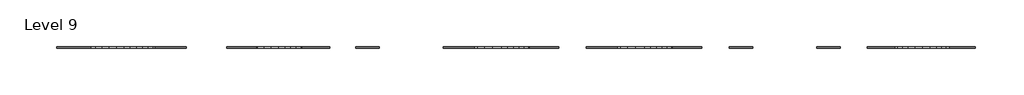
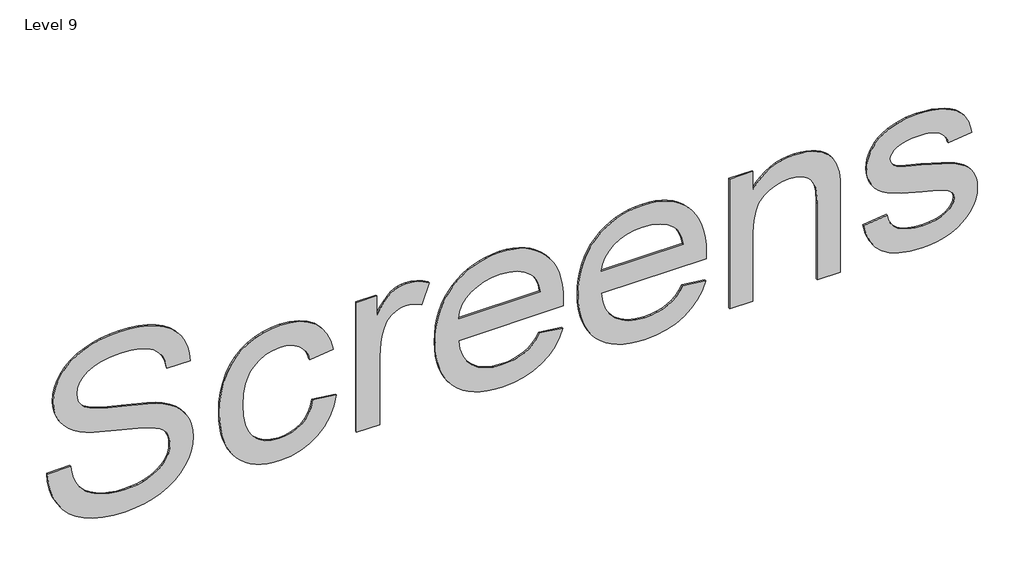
# One storey: 1 proxy.
"""IFC4 building model written with IfcOpenShell, lengths in millimetres."""

from ifc_helpers import new_model, si_unit, frame, origin, place, context, project, spatial, polyline, outline, extrude, element, save

model = new_model("IFC4")

# Units and contexts
model_context = context("Model", 3, world=origin())
ifc_project = project(units=[si_unit("LENGTHUNIT", "METRE", prefix="MILLI")], contexts=[model_context])

# Site, building, storey
site = spatial("IfcSite", under=ifc_project)
building = spatial("IfcBuilding", under=site)
storey = spatial("IfcBuildingStorey", under=building, Name="Level 9", Elevation=24000.0)

# Proxy
placement = place(None, origin())
element("IfcBuildingElementProxy", 1, Name="1200mm Arial", ObjectType="1200mm Arial", at=placement, inside=storey, context=model_context, shape_type="SweptSolid", body=[
    extrude(outline(polyline([(25424.9429249, -37430.8313829), (25364.00578, -37425.6845435), (25306.2966181, -37413.400275), (25251.8154391, -37393.9785776), (25200.5622431, -37367.4194511), (25154.0434221, -37334.4491919), (25113.7653681, -37295.794096), (25079.7280812, -37251.4541635), (25051.9315613, -37201.4293943), (25030.339942, -37145.379057), (25014.9173567, -37082.9624199), (25005.6638056, -37014.1794831), (25002.5792885, -36939.0302466), (25005.4396401, -36878.8731976), (25014.0206948, -36821.7827324), (25028.3224526, -36767.758851), (25048.3449135, -36716.8015534), (25073.5231806, -36670.2647991), (25103.2923567, -36629.5025477), (25137.652442, -36594.5147991), (25176.6034363, -36565.3015534), (25218.5223816, -36542.2663084), (25261.7863198, -36525.8125619), (25306.3952509, -36515.9403141), (25352.3491749, -36512.6495648), (25398.0251337, -36515.5099163), (25440.9393738, -36524.090971), (25481.0918951, -36538.3927288), (25518.4826976, -36558.4151898), (25552.9324491, -36584.4632189), (25584.261817, -36616.8416812), (25612.4708013, -36655.5505768), (25637.5594022, -36700.5899057), (25654.1117814, -36741.5852892), (25671.9194874, -36798.5771216), (25711.3008795, -36960.5501329), (25732.1393028, -37048.2795364), (25752.7625272, -37117.5018375), (25773.1705528, -37168.2170364), (25793.3633795, -37200.4251329), (25814.6860002, -37220.8869582), (25838.7703397, -37235.5025477), (25865.6163979, -37244.2719014), (25895.2241749, -37247.1950193), (25929.6380599, -37243.0703744), (25961.433692, -37230.6964398), (25990.6110712, -37210.0732153), (26017.1701976, -37181.2007011), (26039.2639476, -37143.3077679), (26055.0451976, -37095.6232864), (26064.5139476, -37038.1472565), (26067.6701976, -36970.8796784), (26064.4780812, -36905.692356), (26054.9017317, -36849.0053886), (26038.9411493, -36800.8187764), (26016.596334, -36761.1325193), (25988.0107516, -36729.3548204), (25953.3278681, -36704.8938829), (25912.5476834, -36687.7497068), (25865.6701976, -36677.922292), (25865.6701976, -36531.0132011), (25915.6860002, -36536.1600406), (25963.011817, -36547.5835136), (26007.6476479, -36565.2836202), (26049.5934931, -36589.2603602), (26087.7374917, -36619.2806017), (26120.9677829, -36655.1112125), (26149.2843667, -36696.7521926), (26172.6872431, -36744.203542), (26191.015013, -36796.4968659), (26204.1062772, -36852.6637693), (26211.9610357, -36912.7042523), (26214.5792885, -36976.6183148), (26212.0776018, -37035.2062054), (26204.5725414, -37091.0323773), (26192.0641074, -37144.0968304), (26174.5522999, -37194.3995648), (26152.2074846, -37240.3893552), (26125.2000272, -37280.5149767), (26093.5299278, -37314.7764291), (26057.1971863, -37343.1737125), (26017.8068276, -37365.4557615), (25976.9638766, -37381.3715108), (25934.6683333, -37390.9209604), (25890.9201976, -37394.1041102), (25851.4491394, -37391.5306905), (25813.9507374, -37383.8104312), (25778.4249917, -37370.9433325), (25744.8719022, -37352.9293943), (25713.6142672, -37329.6789504), (25684.9748851, -37301.1023347), (25658.9537559, -37267.199547), (25635.5508795, -37227.9705875), (25618.1108049, -37189.3692913), (25600.2223993, -37138.1250619), (25563.1005954, -36997.7078034), (25530.0675698, -36861.3793233), (25507.0054249, -36783.8001329), (25492.5064015, -36749.2607153), (25476.5547857, -36721.1055307), (25459.1505776, -36699.334579), (25440.2937772, -36683.9478602), (25419.876785, -36673.2775832), (25397.7920016, -36665.6559568), (25374.039427, -36661.082981), (25348.6190613, -36659.5586557), (25323.0910961, -36661.5940783), (25298.1549278, -36667.700346), (25273.8105563, -36677.8774589), (25250.0579817, -36692.125417), (25227.8566323, -36710.5338865), (25208.1659363, -36733.1925335), (25190.9858937, -36760.1013581), (25176.3165045, -36791.2603602), (25164.5791998, -36825.8177111), (25156.1954107, -36862.9215818), (25151.1651373, -36902.5719724), (25149.4883795, -36944.7688829), (25151.7031344, -36992.4712977), (25158.3473993, -37037.734792), (25169.4211742, -37080.5593659), (25184.924459, -37120.9450193), (25204.0233581, -37157.5467594), (25225.883976, -37189.0195932), (25250.5063127, -37215.3635207), (25277.8903681, -37236.578542), (25308.654839, -37253.5254526), (25343.4184221, -37267.0650477), (25382.1811174, -37277.1973276), (25424.9429249, -37283.922292), (25424.9429249, -37430.8313829)])), frame((0.0, 24202.6264647, 0.0), z_axis=(0.0, 1.0, 0.0), x_axis=(0.0, 0.0, 1.0)), (0.0, 0.0, 1.0), 10.0),
    extrude(outline(polyline([(25333.1247431, -35759.7404739), (25289.3855741, -35769.7382544), (25251.7078397, -35784.8111415), (25220.09154, -35804.9591351), (25194.5366749, -35830.1822352), (25174.8280456, -35859.6555129), (25160.7504533, -35892.5540392), (25152.3038979, -35928.8778141), (25149.4883795, -35968.6268375), (25153.998589, -36017.9522104), (25167.5292175, -36062.3459426), (25190.0802651, -36101.8080342), (25221.6517317, -36136.3384852), (25241.0577376, -36151.3687809), (25263.194079, -36164.3950371), (25315.6577687, -36184.4354312), (25379.0428006, -36196.4596677), (25453.3491749, -36200.4677466), (25526.552655, -36196.3700016), (25589.2113908, -36184.0767665), (25641.3253823, -36163.5880413), (25663.4280989, -36150.27037), (25682.8946295, -36134.9038261), (25714.6543951, -36099.6739788), (25737.339942, -36059.5483574), (25750.9512701, -36014.5269618), (25755.4883795, -35964.609792), (25753.1839583, -35931.1732686), (25746.2706948, -35900.3011983), (25734.748589, -35871.9935811), (25718.6176408, -35846.250417), (25697.9137168, -35823.6455697), (25672.6726834, -35804.7529028), (25642.8945407, -35789.5724163), (25608.5792885, -35778.1041102), (25626.9429249, -35631.1950193), (25689.171263, -35647.290101), (25743.8676408, -35671.1861415), (25791.0320584, -35702.8831408), (25830.6645158, -35742.3810989), (25862.0476834, -35788.8909533), (25884.4642317, -35841.6236415), (25897.9141607, -35900.5791635), (25902.3974704, -35965.7575193), (25899.1336209, -36018.7054064), (25889.3420726, -36069.662704), (25873.0228255, -36118.6294121), (25850.1758795, -36165.6055307), (25820.7922679, -36208.6453034), (25784.8630243, -36245.8029739), (25742.3881486, -36277.078542), (25693.3676408, -36302.4720079), (25638.8954285, -36322.1178709), (25580.0654391, -36336.1506301), (25516.8776728, -36344.5702856), (25449.3321295, -36347.3768375), (25396.9558644, -36345.7337045), (25347.7134327, -36340.8043055), (25301.6048345, -36332.5886406), (25258.6300698, -36321.0867097), (25218.7891385, -36306.2985127), (25182.0820407, -36288.2240499), (25148.5087763, -36266.863321), (25118.0693454, -36242.2163261), (25091.0013633, -36214.8614122), (25067.5424455, -36185.3769263), (25047.692592, -36153.7628682), (25031.4518028, -36120.0192381), (25018.8200778, -36084.1460358), (25009.7974171, -36046.1432615), (25004.3838207, -36006.0109151), (25002.5792885, -35963.7489966), (25007.7530279, -35897.4318801), (25023.2742459, -35836.4947352), (25049.1429427, -35780.9375619), (25085.3591181, -35730.7603602), (25130.7391785, -35687.7743872), (25184.09953, -35653.7909), (25245.4401728, -35628.8098986), (25314.7611067, -35612.8313829), (25333.1247431, -35759.7404739)])), frame((0.0, 24202.6264647, 0.0), z_axis=(0.0, 1.0, 0.0), x_axis=(0.0, 0.0, 1.0)), (0.0, 0.0, 1.0), 10.0),
    extrude(outline(polyline([(25020.9429249, -35484.2859284), (25020.9429249, -35337.3768375), (25474.5821295, -35337.3768375), (25564.1048567, -35331.4230023), (25606.0686351, -35323.9807082), (25646.1673567, -35313.5614966), (25670.4489618, -35304.2272459), (25691.9329817, -35292.2926756), (25710.6194164, -35277.7577856), (25726.5082658, -35260.6225761), (25739.1870655, -35241.6043766), (25748.243351, -35221.4205165), (25753.6771224, -35200.0709959), (25755.4883795, -35177.5558148), (25753.6053894, -35151.7319511), (25747.9564192, -35125.9080875), (25738.5414689, -35100.0842239), (25725.3605385, -35074.2603602), (25857.0622431, -35025.1950193), (25876.896405, -35062.4961557), (25891.0636635, -35099.5103602), (25899.5640187, -35136.2376329), (25902.3974704, -35172.6779739), (25900.6220797, -35197.1389114), (25895.2959079, -35220.5955875), (25886.4189547, -35243.0480023), (25873.9912204, -35264.4961557), (25855.9862488, -35285.9084426), (25830.377584, -35308.2532579), (25797.165226, -35331.5306017), (25756.3491749, -35355.7404739), (25884.033834, -35355.7404739), (25884.033834, -35484.2859284), (25020.9429249, -35484.2859284)])), frame((0.0, 24202.6264647, 0.0), z_axis=(0.0, 1.0, 0.0), x_axis=(0.0, 0.0, 1.0)), (0.0, 0.0, 1.0), 10.0),
    extrude(outline(polyline([(25278.033834, -34329.0984284), (25246.7403326, -34348.1435278), (25220.0018738, -34370.2731443), (25197.8184576, -34395.4872778), (25180.190084, -34423.7859284), (25166.7580883, -34455.169096), (25157.1638056, -34489.6367807), (25151.407236, -34527.1889824), (25149.4883795, -34567.8257011), (25153.6309576, -34622.1544476), (25166.058692, -34671.8026187), (25186.7715826, -34716.7702146), (25215.7696295, -34757.0572352), (25252.5507019, -34790.7986237), (25296.6126692, -34816.1293233), (25347.9555314, -34833.0493339), (25406.5792885, -34841.5586557), (25406.5792885, -34181.328542), (25446.1758795, -34180.4677466), (25498.8861511, -34182.2095124), (25548.5567388, -34187.4348098), (25595.1876426, -34196.1436388), (25638.7788624, -34208.3359994), (25679.3303983, -34224.0118916), (25716.8422502, -34243.1713155), (25751.3144182, -34265.8142709), (25782.7469022, -34291.9407579), (25810.7900041, -34320.8110305), (25835.0940258, -34351.6853425), (25855.6589672, -34384.5636939), (25872.4848283, -34419.4460847), (25885.5716092, -34456.3325149), (25894.9193099, -34495.2229845), (25900.5279302, -34536.1174936), (25902.3974704, -34579.016042), (25900.5234469, -34623.3649412), (25894.9013766, -34665.5977182), (25885.5312594, -34705.714373), (25872.4130954, -34743.7149057), (25855.5468844, -34779.5993162), (25834.9326266, -34813.3676045), (25810.5703219, -34845.0197707), (25782.4599704, -34874.5558148), (25750.9557534, -34901.2539238), (25716.4118525, -34924.3922849), (25678.8282676, -34943.9708982), (25638.2049988, -34959.9897636), (25594.542046, -34972.4488812), (25547.8394093, -34981.3482508), (25498.0970886, -34986.6878727), (25445.315084, -34988.4677466), (25394.2703619, -34986.7058059), (25346.153241, -34981.4199838), (25300.9637213, -34972.6102803), (25258.7018028, -34960.2766954), (25219.3674855, -34944.4192292), (25182.9607694, -34925.0378815), (25149.4816545, -34902.1326525), (25118.9301408, -34875.703542), (25091.6604098, -34846.2706141), (25068.0266429, -34814.3539327), (25048.0288402, -34779.9534977), (25031.6670016, -34743.0693091), (25018.9411271, -34703.701367), (25009.8512168, -34661.8496713), (25004.3972706, -34617.5142221), (25002.5792885, -34570.6950193), (25006.7935996, -34497.7695044), (25019.4365329, -34431.6406869), (25040.5080883, -34372.3085669), (25070.0082658, -34319.7731443), (25107.148003, -34274.5006834), (25151.1382374, -34236.9574483), (25201.9789689, -34207.1434391), (25259.6701976, -34185.0586557), (25278.033834, -34329.0984284)]), holes=[polyline([(25553.4883795, -34841.5586557), (25597.2185819, -34833.5873311), (25636.3040755, -34817.4205165), (25670.7448603, -34793.0582118), (25700.5409363, -34760.500417), (25724.5804427, -34721.7018552), (25741.7515187, -34678.6172494), (25752.0541643, -34631.2465996), (25755.4883795, -34579.5899057), (25751.1844022, -34522.9567381), (25738.2724704, -34471.8470079), (25716.752584, -34426.2607153), (25686.6247431, -34386.1978602), (25661.6258084, -34364.3372423), (25631.1034363, -34347.2468659), (25595.0576266, -34334.926731), (25553.4883795, -34327.3768375), (25553.4883795, -34841.5586557)])]), frame((0.0, 24202.6264647, 0.0), z_axis=(0.0, 1.0, 0.0), x_axis=(0.0, 0.0, 1.0)), (0.0, 0.0, 1.0), 10.0),
    extrude(outline(polyline([(25278.033834, -33429.2802466), (25246.7403326, -33448.325346), (25220.0018738, -33470.4549625), (25197.8184576, -33495.669096), (25180.190084, -33523.9677466), (25166.7580883, -33555.3509142), (25157.1638056, -33589.8185989), (25151.407236, -33627.3708006), (25149.4883795, -33668.0075193), (25153.6309576, -33722.3362658), (25166.058692, -33771.9844369), (25186.7715826, -33816.9520328), (25215.7696295, -33857.2390534), (25252.5507019, -33890.9804419), (25296.6126692, -33916.3111415), (25347.9555314, -33933.2311521), (25406.5792885, -33941.7404739), (25406.5792885, -33281.5103602), (25446.1758795, -33280.6495648), (25498.8861511, -33282.3913306), (25548.5567388, -33287.616628), (25595.1876426, -33296.325457), (25638.7788624, -33308.5178176), (25679.3303983, -33324.1937098), (25716.8422502, -33343.3531337), (25751.3144182, -33365.9960891), (25782.7469022, -33392.1225761), (25810.7900041, -33420.9928487), (25835.0940258, -33451.8671606), (25855.6589672, -33484.745512), (25872.4848283, -33519.6279028), (25885.5716092, -33556.5143331), (25894.9193099, -33595.4048027), (25900.5279302, -33636.2993117), (25902.3974704, -33679.1978602), (25900.5234469, -33723.5467594), (25894.9013766, -33765.7795364), (25885.5312594, -33805.8961912), (25872.4130954, -33843.8967239), (25855.5468844, -33879.7811344), (25834.9326266, -33913.5494227), (25810.5703219, -33945.2015889), (25782.4599704, -33974.7376329), (25750.9557534, -34001.435742), (25716.4118525, -34024.5741031), (25678.8282676, -34044.1527164), (25638.2049988, -34060.1715818), (25594.542046, -34072.6306994), (25547.8394093, -34081.530069), (25498.0970886, -34086.8696908), (25445.315084, -34088.6495648), (25394.2703619, -34086.8876241), (25346.153241, -34081.601802), (25300.9637213, -34072.7920985), (25258.7018028, -34060.4585136), (25219.3674855, -34044.6010474), (25182.9607694, -34025.2196997), (25149.4816545, -34002.3144707), (25118.9301408, -33975.8853602), (25091.6604098, -33946.4524323), (25068.0266429, -33914.5357508), (25048.0288402, -33880.1353158), (25031.6670016, -33843.2511273), (25018.9411271, -33803.8831852), (25009.8512168, -33762.0314895), (25004.3972706, -33717.6960403), (25002.5792885, -33670.8768375), (25006.7935996, -33597.9513226), (25019.4365329, -33531.8225051), (25040.5080883, -33472.4903851), (25070.0082658, -33419.9549625), (25107.148003, -33374.6825016), (25151.1382374, -33337.1392665), (25201.9789689, -33307.3252572), (25259.6701976, -33285.2404739), (25278.033834, -33429.2802466)]), holes=[polyline([(25553.4883795, -33941.7404739), (25597.2185819, -33933.7691493), (25636.3040755, -33917.6023347), (25670.7448603, -33893.24003), (25700.5409363, -33860.6822352), (25724.5804427, -33821.8836734), (25741.7515187, -33778.7990676), (25752.0541643, -33731.4284177), (25755.4883795, -33679.7717239), (25751.1844022, -33623.1385562), (25738.2724704, -33572.0288261), (25716.752584, -33526.4425335), (25686.6247431, -33486.3796784), (25661.6258084, -33464.5190605), (25631.1034363, -33447.4286841), (25595.0576266, -33435.1085491), (25553.4883795, -33427.5586557), (25553.4883795, -33941.7404739)])]), frame((0.0, 24202.6264647, 0.0), z_axis=(0.0, 1.0, 0.0), x_axis=(0.0, 0.0, 1.0)), (0.0, 0.0, 1.0), 10.0),
    extrude(outline(polyline([(25020.9429249, -33133.7404739), (25020.9429249, -32986.8313829), (25478.8861067, -32986.8313829), (25553.0400485, -32982.6439717), (25614.246192, -32970.0817381), (25639.9938393, -32960.6600628), (25662.5045371, -32949.144682), (25681.7782853, -32935.5355955), (25697.815084, -32919.8328034), (25723.0471508, -32884.746422), (25741.0700556, -32846.4858574), (25751.8837985, -32805.0511095), (25755.4883795, -32760.4421784), (25753.8833546, -32732.4035598), (25749.06828, -32706.2479312), (25741.0431557, -32681.9752927), (25729.8079817, -32659.5856443), (25715.8828219, -32639.760449), (25699.7877403, -32623.1811699), (25681.5227367, -32609.847807), (25661.0878113, -32599.7603602), (25636.8241394, -32592.3539327), (25607.0728965, -32587.0636273), (25531.1076976, -32582.8313829), (25020.9429249, -32582.8313829), (25020.9429249, -32435.922292), (25550.9059931, -32435.922292), (25637.2007374, -32437.8590818), (25692.9372431, -32443.6694511), (25751.2202687, -32460.9929597), (25800.9670726, -32487.7134852), (25822.6124917, -32505.4135918), (25842.0700556, -32527.0948773), (25859.3397644, -32552.7573418), (25874.4216181, -32582.4009852), (25886.6610535, -32614.7973808), (25895.4035073, -32648.7181017), (25900.6489796, -32684.1631479), (25902.3974704, -32721.1325193), (25900.2275485, -32763.3204632), (25893.7177829, -32802.943954), (25882.8681735, -32840.0029916), (25867.6787204, -32874.4975761), (25848.1494235, -32906.4277075), (25824.2802829, -32935.7933858), (25796.0712985, -32962.5946109), (25763.5224704, -32986.8313829), (25884.033834, -32986.8313829), (25884.033834, -33133.7404739), (25020.9429249, -33133.7404739)])), frame((0.0, 24202.6264647, 0.0), z_axis=(0.0, 1.0, 0.0), x_axis=(0.0, 0.0, 1.0)), (0.0, 0.0, 1.0), 10.0),
    extrude(outline(polyline([(25278.033834, -32289.0132011), (25213.9404391, -32272.8374199), (25158.2397999, -32248.6992807), (25110.9319164, -32216.5987835), (25072.0167885, -32176.5359284), (25041.6378823, -32127.4885207), (25019.9386635, -32068.4343659), (25006.9191323, -31999.3734639), (25002.5792885, -31920.3058148), (25004.82991, -31870.8459426), (25011.5817743, -31824.0401898), (25022.8348816, -31779.8885562), (25038.5892317, -31738.391042), (25058.4682268, -31700.5788084), (25082.0952687, -31667.4830165), (25109.4703574, -31639.1036663), (25140.5934931, -31615.4407579), (25174.1286493, -31596.7991564), (25208.7397999, -31583.4837267), (25244.4269448, -31575.4944689), (25281.190084, -31572.8313829), (25317.7918241, -31575.0999376), (25351.2731806, -31581.9056017), (25381.6341536, -31593.2483751), (25408.8747431, -31609.1282579), (25433.0308155, -31628.9982864), (25454.1382374, -31652.3114966), (25472.1970087, -31679.0678886), (25487.2071295, -31709.2674625), (25517.980567, -31795.0959426), (25556.3576976, -31924.8967239), (25587.6332658, -32051.4336557), (25602.0515897, -32083.7852182), (25620.0565613, -32106.2376329), (25640.2135215, -32119.3647636), (25662.8094022, -32123.7404739), (25680.7426408, -32121.1042878), (25697.5281522, -32113.1957295), (25713.1659363, -32100.0147991), (25727.6559931, -32081.5614966), (25739.8326621, -32056.9570932), (25748.5302829, -32025.3228602), (25753.7488553, -31986.6587977), (25755.4883795, -31940.9649057), (25753.6681557, -31901.574547), (25748.2074846, -31866.9006301), (25739.106366, -31836.943155), (25726.3647999, -31811.7021216), (25710.3773177, -31791.0878638), (25691.5384505, -31775.0107153), (25669.8481983, -31763.4706763), (25645.3065613, -31756.4677466), (25663.6701976, -31609.5586557), (25702.8991572, -31617.8796784), (25737.9496721, -31629.0700193), (25768.8217424, -31643.1296784), (25795.5153681, -31660.0586557), (25818.8465116, -31680.9329454), (25839.6311351, -31706.828542), (25857.8692388, -31737.7454454), (25873.5608226, -31773.6836557), (25886.176856, -31813.6927111), (25895.1883084, -31856.82215), (25900.5951799, -31903.0719724), (25902.3974704, -31952.4421784), (25897.9141607, -32017.7550335), (25884.4642317, -32078.8356443), (25864.6300698, -32131.6669653), (25840.9940613, -32172.2319511), (25823.2849881, -32193.8415037), (25803.4418596, -32213.0480023), (25781.4646756, -32229.8514469), (25757.3534363, -32244.2518375), (25731.6282054, -32255.8008432), (25704.8090471, -32264.0501329), (25676.8959611, -32268.9997068), (25647.8889476, -32270.6495648), (25616.1650485, -32268.5962089), (25585.839942, -32262.4361415), (25556.913628, -32252.1693624), (25529.3861067, -32237.7958716), (25504.0195407, -32219.4412018), (25481.5760925, -32197.2308858), (25462.0557623, -32171.1649234), (25445.4585499, -32141.2433148), (25412.3537914, -32054.087775), (25373.5821295, -31920.0188829), (25350.3406522, -31823.8249909), (25331.690084, -31768.8058148), (25318.5270868, -31747.3397281), (25303.1403681, -31732.0068091), (25285.5299278, -31722.8070577), (25265.6957658, -31719.7404739), (25243.0640187, -31722.7891244), (25221.9386635, -31731.9350761), (25202.3197005, -31747.178329), (25184.2071295, -31768.5188829), (25169.0176763, -31796.1719369), (25158.168067, -31830.3526898), (25151.6583013, -31871.0611415), (25149.4883795, -31918.297292), (25151.855567, -31965.5872423), (25158.9571295, -32007.3178886), (25170.793067, -32043.489231), (25187.3633795, -32074.1012693), (25208.3811351, -32099.2257366), (25233.5594022, -32118.9343659), (25262.8981806, -32133.2271571), (25296.3974704, -32142.1041102), (25278.033834, -32289.0132011)])), frame((0.0, 24202.6264647, 0.0), z_axis=(0.0, 1.0, 0.0), x_axis=(0.0, 0.0, 1.0)), (0.0, 0.0, 1.0), 10.0),
])

save(model, "model.ifc")
